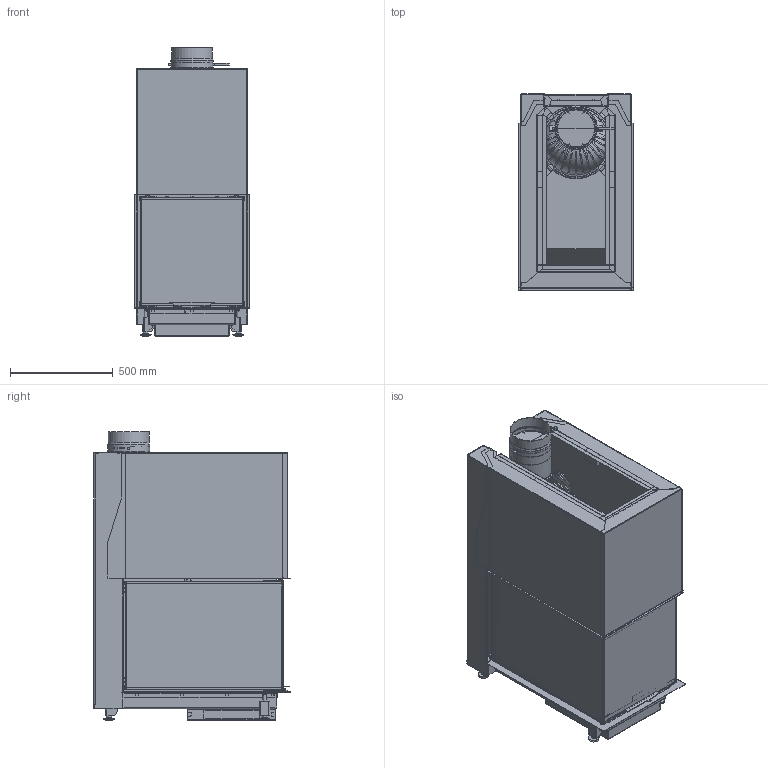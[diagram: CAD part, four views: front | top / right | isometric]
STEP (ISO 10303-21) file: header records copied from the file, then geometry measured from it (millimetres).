
FILE_DESCRIPTION(/* description */ (''),/* implementation_level */ '2;1');
FILE_NAME(/* name */ 'C:\ADSK_DM_WS\CAD_3D\03 Geraete\RIII 55x56x80\Zeichnungen\RIII 55x56x80 Gen.2 ohne Mantel Abgang oben CAD Planung defriten 2021-03282 211124.stp',/* time_stamp */ '2021-11-24T13:28:30+01:00',/* author */ ('CPI'),/* organization */ (''),/* preprocessor_version */ 'ST-DEVELOPER v18.1',/* originating_system */ 'Autodesk Inventor 2022',/* authorisation */ '');
FILE_SCHEMA (('AUTOMOTIVE_DESIGN { 1 0 10303 214 3 1 1 }'));
Products named in the file (8): 2021-03282; 2021-03272; 2021-03276; 2021-03278; 2021-03280; 2021-03174; 2021-03193; 2018-00985
Assembly tree (7 placements, depth 2):
  2021-03282
    2021-03272
    2021-03276
    2021-03278
    2021-03280
    2021-03174
    2021-03193
    2018-00985
Bounding box: 560 x 952 x 1399 mm (x, y, z)
Volume: 24001361.9 mm3; surface area: 19833557.9 mm2
Topology: 17 solids, 32 shells, 7692 faces, 21327 edges, 13441 vertices
Faces by surface type: plane 4646, cylinder 2670, bspline 221, cone 97, torus 57, sphere 1
Full cylindrical faces by diameter (mm): 3.242 x6, 4.8 x1, 6 x3, 7.5 x8, 7.9 x2, 10 x10, 10.21 x4, 12 x4, 16 x10, 20 x4, 30 x4, 163 x1, 194 x1, 198 x1, 200 x1, 204 x1, 333 x1, 339 x1
Entity records: 258214 total; most frequent: CARTESIAN_POINT 54759, ORIENTED_EDGE 42554, DIRECTION 41592, EDGE_CURVE 21334, LINE 14142, VECTOR 14142, AXIS2_PLACEMENT_3D 13725, VERTEX_POINT 13438
